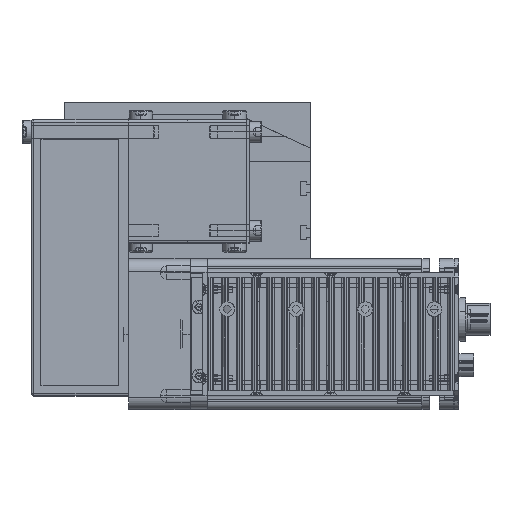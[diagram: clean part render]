
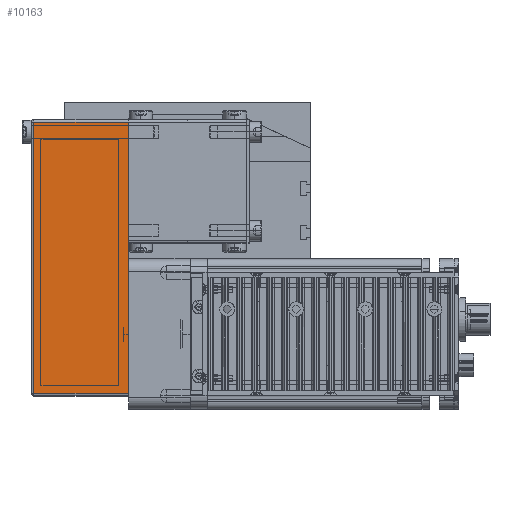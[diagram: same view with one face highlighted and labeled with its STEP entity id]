
A CAD part, top view. The second image highlights one B-rep face of the part: STEP entity #10163.
In plain terms, the highlighted planar face has unit normal (0, 0, 1) as drawn and (0, 1, 0) by its records, which use the part's own axes.
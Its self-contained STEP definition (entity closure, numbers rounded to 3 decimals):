
#7712 = ORIENTED_EDGE ( 'NONE', *, *, #10096, .F. ) ;
#9941 = ORIENTED_EDGE ( 'NONE', *, *, #10132, .F. ) ;
#10067 = VERTEX_POINT ( 'NONE', #15734 ) ;
#10073 = VERTEX_POINT ( 'NONE', #15743 ) ;
#10074 = VERTEX_POINT ( 'NONE', #15843 ) ;
#10082 = EDGE_CURVE ( 'NONE', #10073, #10074, #15811, .T. ) ;
#10086 = VERTEX_POINT ( 'NONE', #15920 ) ;
#10096 = EDGE_CURVE ( 'NONE', #10086, #10073, #15916, .T. ) ;
#10132 = EDGE_CURVE ( 'NONE', #10067, #10086, #16112, .T. ) ;
#10157 = ORIENTED_EDGE ( 'NONE', *, *, #10082, .F. ) ;
#10159 = EDGE_LOOP ( 'NONE', ( #10157, #7712, #9941, #10217 ) ) ;
#10163 = ADVANCED_FACE ( 'NONE', ( #16209 ), #16189, .F. ) ;
#10217 = ORIENTED_EDGE ( 'NONE', *, *, #10219, .T. ) ;
#10219 = EDGE_CURVE ( 'NONE', #10067, #10074, #16445, .T. ) ;
#15734 = CARTESIAN_POINT ( 'NONE',  ( 61., 25., 0. ) ) ;
#15743 = CARTESIAN_POINT ( 'NONE',  ( -49., 25., 38.5 ) ) ;
#15810 = CARTESIAN_POINT ( 'NONE',  ( -49., 25., 39.5 ) ) ;
#15811 = LINE ( 'NONE', #15810, #15928 ) ;
#15843 = CARTESIAN_POINT ( 'NONE',  ( -49., 25., 0. ) ) ;
#15880 = DIRECTION ( 'NONE',  ( -1., 0., 0. ) ) ;
#15881 = VECTOR ( 'NONE', #15880, 1000. ) ;
#15882 = CARTESIAN_POINT ( 'NONE',  ( -50., 25., 38.5 ) ) ;
#15916 = LINE ( 'NONE', #15882, #15881 ) ;
#15920 = CARTESIAN_POINT ( 'NONE',  ( 61., 25., 38.5 ) ) ;
#15927 = DIRECTION ( 'NONE',  ( 0., 0., -1. ) ) ;
#15928 = VECTOR ( 'NONE', #15927, 1000. ) ;
#16100 = DIRECTION ( 'NONE',  ( 0., 0., 1. ) ) ;
#16102 = VECTOR ( 'NONE', #16100, 1000. ) ;
#16104 = CARTESIAN_POINT ( 'NONE',  ( 61., 25., 39.5 ) ) ;
#16112 = LINE ( 'NONE', #16104, #16102 ) ;
#16183 = DIRECTION ( 'NONE',  ( 0., 0., -1. ) ) ;
#16185 = DIRECTION ( 'NONE',  ( 0., -1., 0. ) ) ;
#16186 = CARTESIAN_POINT ( 'NONE',  ( -50., 25., 39.5 ) ) ;
#16187 = AXIS2_PLACEMENT_3D ( 'NONE', #16186, #16185, #16183 ) ;
#16189 = PLANE ( 'NONE',  #16187 ) ;
#16209 = FACE_OUTER_BOUND ( 'NONE', #10159, .T. ) ;
#16429 = DIRECTION ( 'NONE',  ( -1., 0., 0. ) ) ;
#16430 = VECTOR ( 'NONE', #16429, 1000. ) ;
#16444 = CARTESIAN_POINT ( 'NONE',  ( -50., 25., 0. ) ) ;
#16445 = LINE ( 'NONE', #16444, #16430 ) ;
